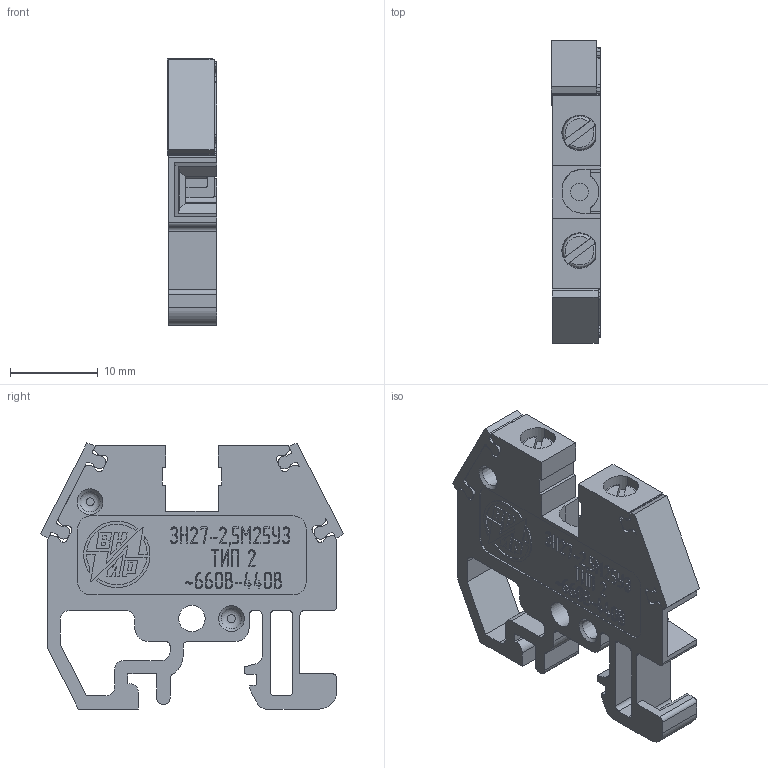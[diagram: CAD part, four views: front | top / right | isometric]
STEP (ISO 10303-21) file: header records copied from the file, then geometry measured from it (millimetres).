
FILE_DESCRIPTION(('STEP AP242'), '1');
FILE_NAME('ÇÍ27-2,5Ì25 òèï 2 áåç êðûøêè', '', ('UNSPECIFIED'), ('UNSPECIFIED'), 'ASCON STEP Converter 1.6', 'ASCON Math Kernel', '');
FILE_SCHEMA(('AP242_MANAGED_MODEL_BASED_3D_ENGINEERING_MIM_LF { 1 0 10303 442 1 1 4 }'));
Length unit declared in the file: millimetre
Bounding box: 5.62 x 34.48 x 30.3 mm (x, y, z)
Volume: 2680.5 mm3; surface area: 4293.7 mm2
Topology: 1 solids, 1 shells, 2121 faces, 6195 edges, 4116 vertices
Faces by surface type: plane 1382, cylinder 713, cone 16, torus 10
Full cylindrical faces by diameter (mm): 2 x2, 2.013 x1, 2.459 x2, 2.6 x2, 3 x3
Entity records: 87611 total; most frequent: CARTESIAN_POINT 13114, ORIENTED_EDGE 12322, DIRECTION 11821, EDGE_CURVE 6161, LINE 4645, VECTOR 4645, VERTEX_POINT 4114, AXIS2_PLACEMENT_3D 3588
